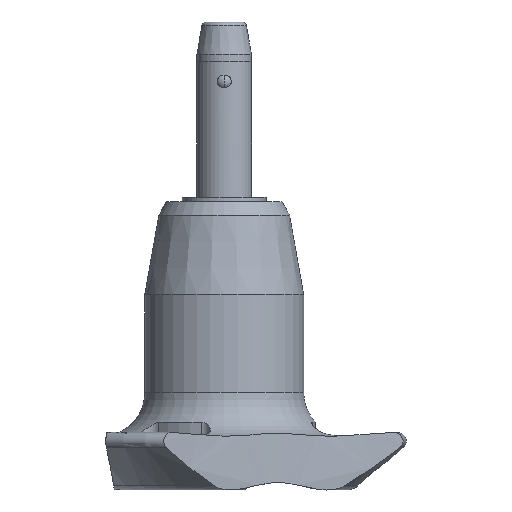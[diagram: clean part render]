
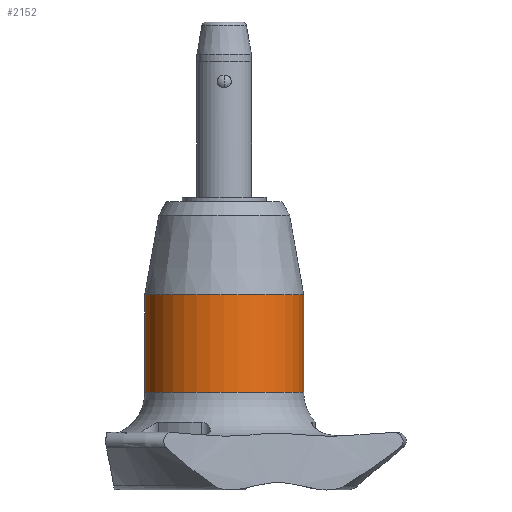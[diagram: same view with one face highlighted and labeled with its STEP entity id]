
A CAD part, front view. The second image highlights one B-rep face of the part: STEP entity #2152.
In plain terms, the highlighted cylindrical face has radius 7.25 mm (diameter 14.5 mm), a partial arc.
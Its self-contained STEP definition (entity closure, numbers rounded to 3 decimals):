
#86 = CIRCLE ( 'NONE', #1696, 7.25 ) ;
#91 = VERTEX_POINT ( 'NONE', #2697 ) ;
#227 = LINE ( 'NONE', #1536, #2416 ) ;
#252 = DIRECTION ( 'NONE',  ( 0., 0., -1. ) ) ;
#273 = EDGE_CURVE ( 'NONE', #1977, #91, #227, .T. ) ;
#385 = EDGE_CURVE ( 'NONE', #91, #2292, #86, .T. ) ;
#525 = LINE ( 'NONE', #1172, #1961 ) ;
#634 = CIRCLE ( 'NONE', #2166, 7.25 ) ;
#732 = EDGE_LOOP ( 'NONE', ( #2178, #1400, #2375, #2194 ) ) ;
#939 = FACE_OUTER_BOUND ( 'NONE', #732, .T. ) ;
#980 = DIRECTION ( 'NONE',  ( -1., 0., 0. ) ) ;
#1172 = CARTESIAN_POINT ( 'NONE',  ( -7.25, 0., -27.8 ) ) ;
#1178 = CARTESIAN_POINT ( 'NONE',  ( -7.25, 0., -18.9 ) ) ;
#1295 = AXIS2_PLACEMENT_3D ( 'NONE', #1784, #252, #1389 ) ;
#1389 = DIRECTION ( 'NONE',  ( -1., 0., 0. ) ) ;
#1400 = ORIENTED_EDGE ( 'NONE', *, *, #1729, .T. ) ;
#1536 = CARTESIAN_POINT ( 'NONE',  ( 7.25, 0., -27.8 ) ) ;
#1551 = CYLINDRICAL_SURFACE ( 'NONE', #1295, 7.25 ) ;
#1625 = VERTEX_POINT ( 'NONE', #1178 ) ;
#1657 = CARTESIAN_POINT ( 'NONE',  ( -7.25, 0., -27.8 ) ) ;
#1696 = AXIS2_PLACEMENT_3D ( 'NONE', #2174, #2149, #1939 ) ;
#1729 = EDGE_CURVE ( 'NONE', #1977, #1625, #634, .T. ) ;
#1738 = DIRECTION ( 'NONE',  ( 0., 0., -1. ) ) ;
#1749 = EDGE_CURVE ( 'NONE', #1625, #2292, #525, .T. ) ;
#1784 = CARTESIAN_POINT ( 'NONE',  ( 0., 0., -27.8 ) ) ;
#1836 = CARTESIAN_POINT ( 'NONE',  ( 7.25, 0., -18.9 ) ) ;
#1939 = DIRECTION ( 'NONE',  ( -1., 0., 0. ) ) ;
#1961 = VECTOR ( 'NONE', #2661, 1000. ) ;
#1977 = VERTEX_POINT ( 'NONE', #1836 ) ;
#1995 = CARTESIAN_POINT ( 'NONE',  ( 0., 0., -18.9 ) ) ;
#2149 = DIRECTION ( 'NONE',  ( 0., 0., -1. ) ) ;
#2152 = ADVANCED_FACE ( 'NONE', ( #939 ), #1551, .T. ) ;
#2166 = AXIS2_PLACEMENT_3D ( 'NONE', #1995, #2682, #980 ) ;
#2174 = CARTESIAN_POINT ( 'NONE',  ( 0., 0., -27.8 ) ) ;
#2178 = ORIENTED_EDGE ( 'NONE', *, *, #273, .F. ) ;
#2194 = ORIENTED_EDGE ( 'NONE', *, *, #385, .F. ) ;
#2292 = VERTEX_POINT ( 'NONE', #1657 ) ;
#2375 = ORIENTED_EDGE ( 'NONE', *, *, #1749, .T. ) ;
#2416 = VECTOR ( 'NONE', #1738, 1000. ) ;
#2661 = DIRECTION ( 'NONE',  ( 0., 0., -1. ) ) ;
#2682 = DIRECTION ( 'NONE',  ( 0., 0., -1. ) ) ;
#2697 = CARTESIAN_POINT ( 'NONE',  ( 7.25, 0., -27.8 ) ) ;
